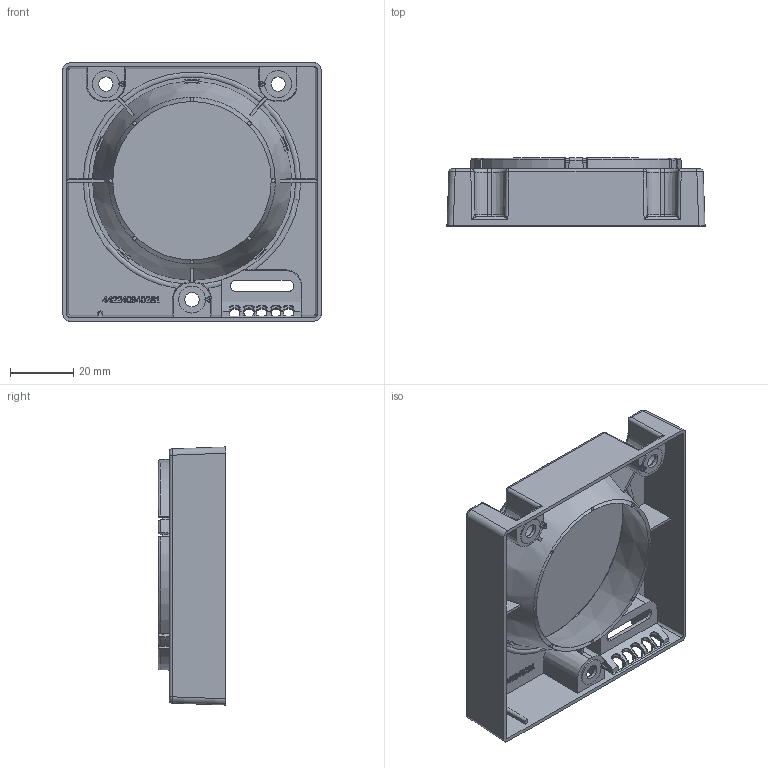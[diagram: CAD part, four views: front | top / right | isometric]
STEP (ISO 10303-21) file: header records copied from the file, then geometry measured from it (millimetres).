
FILE_DESCRIPTION(/* description */ (''),/* implementation_level */ '2;1');
FILE_NAME(/* name */ 'DLM_Flex_Housing.stp',/* time_stamp */ '2016-03-03T13:11:28+08:00',/* author */ (''),/* organization */ (''),/* preprocessor_version */ 'ST-DEVELOPER v11',/* originating_system */ 'SIEMENS PLM Software NX 7.5',/* authorisation */ '');
FILE_SCHEMA (('CONFIG_CONTROL_DESIGN'));
Length unit declared in the file: millimetre
Products named in the file (1): 310096F8fx75
Bounding box: 81.46 x 21.35 x 81.46 mm (x, y, z)
Volume: 21312.9 mm3; surface area: 34601.8 mm2
Topology: 2 solids, 2 shells, 919 faces, 2410 edges, 1504 vertices
Faces by surface type: plane 371, bspline 169, cylinder 168, cone 101, torus 56, extrusion 36, sphere 18
Entity records: 36686 total; most frequent: CARTESIAN_POINT 15569, ORIENTED_EDGE 4770, DIRECTION 3925, EDGE_CURVE 2385, VERTEX_POINT 1500, AXIS2_PLACEMENT_3D 1445, VECTOR 1035, LINE 999
